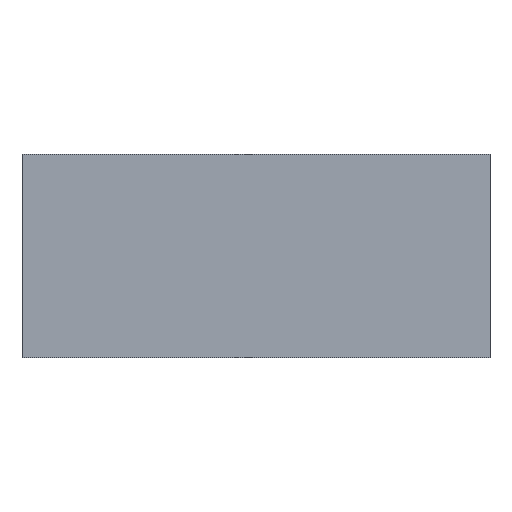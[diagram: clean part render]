
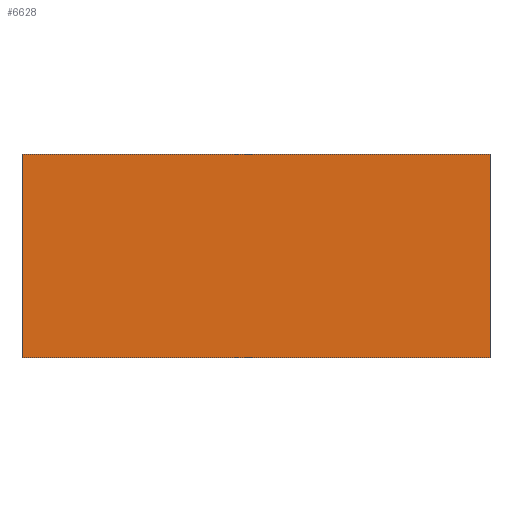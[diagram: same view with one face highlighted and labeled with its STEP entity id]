
A CAD part, front view. The second image highlights one B-rep face of the part: STEP entity #6628.
In plain terms, the highlighted planar face has unit normal (0, -1, 0).
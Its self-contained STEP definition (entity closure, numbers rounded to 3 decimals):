
#6628=ADVANCED_FACE('',(#12972),#12971,.T.);
#12971=PLANE('',#16269);
#12972=FACE_OUTER_BOUND('',#16270,.T.);
#16266=CARTESIAN_POINT('',(339.4,-9.,81.5));
#16267=DIRECTION('',(0.,-1.,0.));
#16268=DIRECTION('',(-1.,0.,0.));
#16269=AXIS2_PLACEMENT_3D('',#16266,#16267,#16268);
#16270=EDGE_LOOP('',(#18235,#18236,#18237,#18238));
#18235=ORIENTED_EDGE('',*,*,#19228,.F.);
#18236=ORIENTED_EDGE('',*,*,#19226,.F.);
#18237=ORIENTED_EDGE('',*,*,#19220,.F.);
#18238=ORIENTED_EDGE('',*,*,#19223,.F.);
#19220=EDGE_CURVE('',#25542,#25527,#25549,.T.);
#19223=EDGE_CURVE('',#25562,#25542,#25569,.T.);
#19226=EDGE_CURVE('',#25527,#25575,#25589,.T.);
#19228=EDGE_CURVE('',#25575,#25562,#25601,.T.);
#25527=VERTEX_POINT('',#29495);
#25542=VERTEX_POINT('',#29504);
#25549=LINE('',#29508,#29509);
#25562=VERTEX_POINT('',#29515);
#25569=LINE('',#29519,#29520);
#25575=VERTEX_POINT('',#29522);
#25589=LINE('',#29530,#29531);
#25601=LINE('',#29536,#29537);
#29495=CARTESIAN_POINT('',(0.,-9.,71.5));
#29504=CARTESIAN_POINT('',(0.,-9.,-71.5));
#29508=CARTESIAN_POINT('',(0.,-9.,-71.5));
#29509=VECTOR('',#29510,143.);
#29510=DIRECTION('',(0.,0.,1.));
#29515=CARTESIAN_POINT('',(329.4,-9.,-71.5));
#29519=CARTESIAN_POINT('',(329.4,-9.,-71.5));
#29520=VECTOR('',#29521,329.4);
#29521=DIRECTION('',(-1.,0.,0.));
#29522=CARTESIAN_POINT('',(329.4,-9.,71.5));
#29530=CARTESIAN_POINT('',(0.,-9.,71.5));
#29531=VECTOR('',#29532,329.4);
#29532=DIRECTION('',(1.,0.,0.));
#29536=CARTESIAN_POINT('',(329.4,-9.,71.5));
#29537=VECTOR('',#29538,143.);
#29538=DIRECTION('',(0.,0.,-1.));
